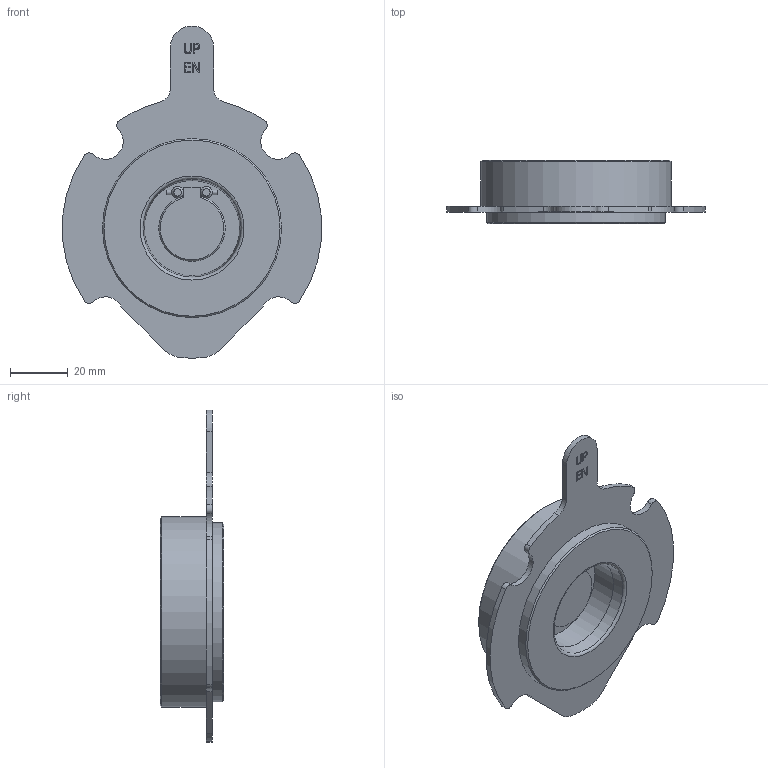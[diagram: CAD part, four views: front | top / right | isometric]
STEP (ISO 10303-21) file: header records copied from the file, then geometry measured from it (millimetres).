
FILE_DESCRIPTION(/* description */ (''),/* implementation_level */ '2;1');
FILE_NAME(/* name */ 'H:\nakaot\Inventor\COS\ckf5m-025-wafer-01.stp',/* time_stamp */ '2015-05-14T10:23:31+09:00',/* author */ ('nakaot'),/* organization */ (''),/* preprocessor_version */ 'ST-DEVELOPER v15.6',/* originating_system */ 'Autodesk Inventor 2015',/* authorisation */ '');
FILE_SCHEMA (('CONFIG_CONTROL_DESIGN'));
Length unit declared in the file: millimetre
Products named in the file (1): ckf5m-025-wafer-01
Bounding box: 89.68 x 22 x 114.98 mm (x, y, z)
Volume: 65767 mm3; surface area: 19356.2 mm2
Topology: 1 solids, 1 shells, 120 faces, 309 edges, 205 vertices
Faces by surface type: plane 63, cylinder 33, bspline 16, cone 7, torus 1
Full cylindrical faces by diameter (mm): 1.6 x4, 2.6 x2, 4 x2, 19 x1, 33 x1, 62 x1, 66 x1
Entity records: 3742 total; most frequent: CARTESIAN_POINT 983, ORIENTED_EDGE 556, DIRECTION 524, EDGE_CURVE 278, VERTEX_POINT 194, AXIS2_PLACEMENT_3D 179, LINE 166, VECTOR 166
